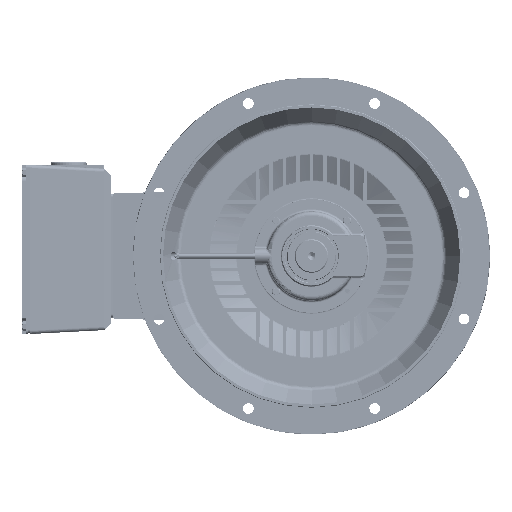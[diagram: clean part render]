
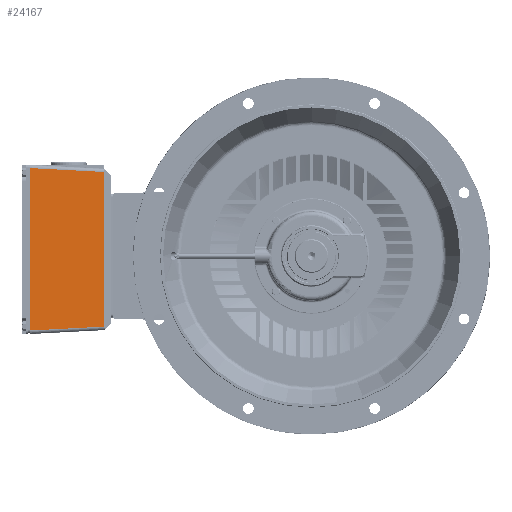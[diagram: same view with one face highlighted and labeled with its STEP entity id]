
A CAD part, left-side view. The second image highlights one B-rep face of the part: STEP entity #24167.
In plain terms, the highlighted planar face has unit normal (-0.999, -0.052, 0) as drawn and (0, -0.052, 0.999) by its records, which use the part's own axes.
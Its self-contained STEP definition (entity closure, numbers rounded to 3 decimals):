
#24167 = ADVANCED_FACE ( 'NONE', ( #280619 ), #280617, .T. ) ;
#24168 = EDGE_LOOP ( 'NONE', ( #24177, #24328, #24343, #24351 ) ) ;
#24177 = ORIENTED_EDGE ( 'NONE', *, *, #24181, .T. ) ;
#24181 = EDGE_CURVE ( 'NONE', #24184, #24188, #280667, .T. ) ;
#24184 = VERTEX_POINT ( 'NONE', #280653 ) ;
#24188 = VERTEX_POINT ( 'NONE', #280644 ) ;
#24328 = ORIENTED_EDGE ( 'NONE', *, *, #24331, .T. ) ;
#24331 = EDGE_CURVE ( 'NONE', #24188, #24335, #280852, .T. ) ;
#24335 = VERTEX_POINT ( 'NONE', #280836 ) ;
#24343 = ORIENTED_EDGE ( 'NONE', *, *, #24344, .F. ) ;
#24344 = EDGE_CURVE ( 'NONE', #24346, #24335, #280835, .T. ) ;
#24346 = VERTEX_POINT ( 'NONE', #280831 ) ;
#24351 = ORIENTED_EDGE ( 'NONE', *, *, #24355, .T. ) ;
#24355 = EDGE_CURVE ( 'NONE', #24346, #24184, #280820, .T. ) ;
#280613 = DIRECTION ( 'NONE',  ( 0., -0.999, -0.052 ) ) ;
#280614 = DIRECTION ( 'NONE',  ( 0., -0.052, 0.999 ) ) ;
#280615 = CARTESIAN_POINT ( 'NONE',  ( -190., 182., 165. ) ) ;
#280616 = AXIS2_PLACEMENT_3D ( 'NONE', #280615, #280614, #280613 ) ;
#280617 = PLANE ( 'NONE',  #280616 ) ;
#280619 = FACE_OUTER_BOUND ( 'NONE', #24168, .T. ) ;
#280644 = CARTESIAN_POINT ( 'NONE',  ( 173.328, 16.317, 156.317 ) ) ;
#280653 = CARTESIAN_POINT ( 'NONE',  ( -173.328, 16.317, 156.317 ) ) ;
#280656 = DIRECTION ( 'NONE',  ( 1., 0., 0. ) ) ;
#280665 = VECTOR ( 'NONE', #280656, 1000. ) ;
#280666 = CARTESIAN_POINT ( 'NONE',  ( 190.001, 16.317, 156.317 ) ) ;
#280667 = LINE ( 'NONE', #280666, #280665 ) ;
#280819 = CARTESIAN_POINT ( 'NONE',  ( -182.033, 182.416, 165.022 ) ) ;
#280820 = LINE ( 'NONE', #280819, #280880 ) ;
#280831 = CARTESIAN_POINT ( 'NONE',  ( -182.011, 182., 165. ) ) ;
#280832 = DIRECTION ( 'NONE',  ( 1., 0., 0. ) ) ;
#280833 = VECTOR ( 'NONE', #280832, 1000. ) ;
#280834 = CARTESIAN_POINT ( 'NONE',  ( -190., 182., 165. ) ) ;
#280835 = LINE ( 'NONE', #280834, #280833 ) ;
#280836 = CARTESIAN_POINT ( 'NONE',  ( 182.011, 182., 165. ) ) ;
#280841 = DIRECTION ( 'NONE',  ( 0.052, 0.997, 0.052 ) ) ;
#280850 = VECTOR ( 'NONE', #280841, 1000. ) ;
#280851 = CARTESIAN_POINT ( 'NONE',  ( 182.033, 182.416, 165.022 ) ) ;
#280852 = LINE ( 'NONE', #280851, #280850 ) ;
#280879 = DIRECTION ( 'NONE',  ( 0.052, -0.997, -0.052 ) ) ;
#280880 = VECTOR ( 'NONE', #280879, 1000. ) ;
